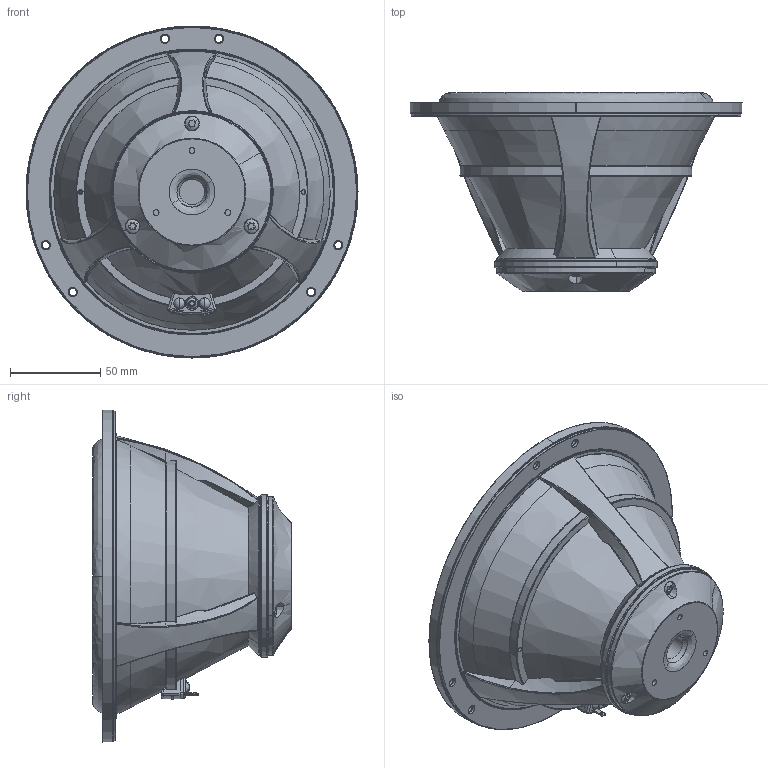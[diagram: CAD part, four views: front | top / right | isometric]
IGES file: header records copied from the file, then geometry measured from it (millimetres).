
Start section: SolidWorks IGES file using analytic representation for surfaces
Global section: file name: W:\TT\WEB 3D ENHEDER VER2\18WU_8741T00\18WU-8741T00.IGS; native system: SolidWorks 2019; preprocessor: SolidWorks 2019; author: mhn; date: 201109.124845; units: millimetre
Bounding box: 184 x 110.25 x 184 mm (x, y, z)
Surface area: 160448.2 mm2 (no closed solid volume)
Topology: 0 solids, 0 shells, 898 faces, 15254 edges, 15230 vertices
Faces by surface type: bspline 506, revolution 392
